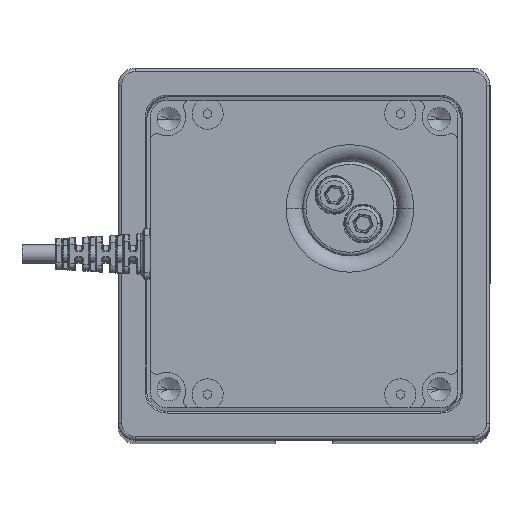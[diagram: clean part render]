
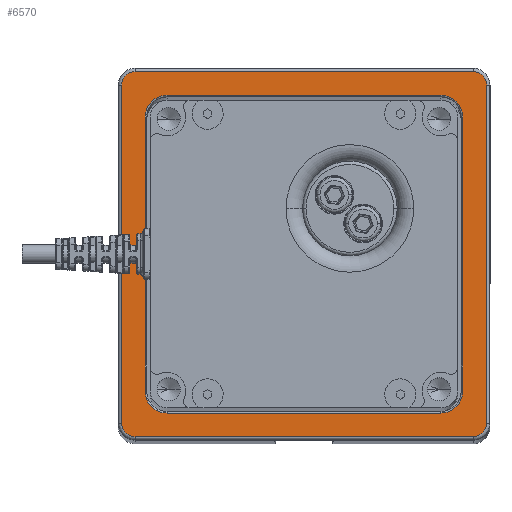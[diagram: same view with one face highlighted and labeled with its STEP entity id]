
A CAD part, top view. The second image highlights one B-rep face of the part: STEP entity #6570.
In plain terms, the highlighted planar face has unit normal (0, 0, 1).
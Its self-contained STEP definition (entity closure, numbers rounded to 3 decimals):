
#168 = VERTEX_POINT ( 'NONE', #11185 ) ;
#336 = EDGE_CURVE ( 'NONE', #10292, #20042, #18397, .T. ) ;
#594 = EDGE_CURVE ( 'NONE', #20042, #2255, #2111, .T. ) ;
#629 = AXIS2_PLACEMENT_3D ( 'NONE', #29610, #15245, #20011 ) ;
#798 = CIRCLE ( 'NONE', #10492, 6.5 ) ;
#900 = CARTESIAN_POINT ( 'NONE',  ( 40.5, 47., 617. ) ) ;
#989 = CARTESIAN_POINT ( 'NONE',  ( 54.041, 50., 617. ) ) ;
#1100 = DIRECTION ( 'NONE',  ( 0., -1., 0. ) ) ;
#1396 = CARTESIAN_POINT ( 'NONE',  ( 47., -40.5, 617. ) ) ;
#1670 = VECTOR ( 'NONE', #4745, 1000. ) ;
#1789 = DIRECTION ( 'NONE',  ( 1., 0., 0. ) ) ;
#1966 = AXIS2_PLACEMENT_3D ( 'NONE', #4145, #11526, #21064 ) ;
#2025 = DIRECTION ( 'NONE',  ( 0., 0., 1. ) ) ;
#2039 = CIRCLE ( 'NONE', #27573, 4. ) ;
#2046 = LINE ( 'NONE', #989, #23629 ) ;
#2111 = LINE ( 'NONE', #16357, #14957 ) ;
#2116 = CARTESIAN_POINT ( 'NONE',  ( -49.959, -50., 617. ) ) ;
#2255 = VERTEX_POINT ( 'NONE', #4176 ) ;
#2368 = CIRCLE ( 'NONE', #1966, 4. ) ;
#2952 = CARTESIAN_POINT ( 'NONE',  ( 40.5, -47., 617. ) ) ;
#3437 = CARTESIAN_POINT ( 'NONE',  ( -53.959, -50., 617. ) ) ;
#3563 = VECTOR ( 'NONE', #1100, 1000. ) ;
#3672 = EDGE_CURVE ( 'NONE', #28622, #20835, #30083, .T. ) ;
#4050 = DIRECTION ( 'NONE',  ( 0., 0., 1. ) ) ;
#4145 = CARTESIAN_POINT ( 'NONE',  ( -49.959, 50., 617. ) ) ;
#4176 = CARTESIAN_POINT ( 'NONE',  ( -47., 40.5, 617. ) ) ;
#4255 = EDGE_CURVE ( 'NONE', #11020, #16785, #2046, .T. ) ;
#4302 = DIRECTION ( 'NONE',  ( 0., 1., 0. ) ) ;
#4477 = CARTESIAN_POINT ( 'NONE',  ( -53.959, 50., 617. ) ) ;
#4509 = EDGE_CURVE ( 'NONE', #16212, #10292, #8453, .T. ) ;
#4745 = DIRECTION ( 'NONE',  ( -1., 0., 0. ) ) ;
#4761 = DIRECTION ( 'NONE',  ( 0., 0., 1. ) ) ;
#4995 = CIRCLE ( 'NONE', #27521, 4. ) ;
#5045 = LINE ( 'NONE', #26482, #23244 ) ;
#5199 = VERTEX_POINT ( 'NONE', #30500 ) ;
#5297 = CIRCLE ( 'NONE', #18721, 6.5 ) ;
#5814 = LINE ( 'NONE', #3437, #3563 ) ;
#6570 = ADVANCED_FACE ( 'NONE', ( #24640, #16693 ), #10252, .T. ) ;
#6936 = DIRECTION ( 'NONE',  ( 0., 0., -1. ) ) ;
#7131 = CARTESIAN_POINT ( 'NONE',  ( -40.5, -40.5, 617. ) ) ;
#7573 = CARTESIAN_POINT ( 'NONE',  ( -40.5, -47., 617. ) ) ;
#7585 = DIRECTION ( 'NONE',  ( 0., 0., -1. ) ) ;
#7749 = ORIENTED_EDGE ( 'NONE', *, *, #21569, .T. ) ;
#8267 = CIRCLE ( 'NONE', #28859, 6.5 ) ;
#8453 = LINE ( 'NONE', #26244, #1670 ) ;
#8928 = EDGE_CURVE ( 'NONE', #168, #25547, #22688, .T. ) ;
#9520 = CARTESIAN_POINT ( 'NONE',  ( 50.041, -50., 617. ) ) ;
#9576 = ORIENTED_EDGE ( 'NONE', *, *, #594, .T. ) ;
#9778 = CIRCLE ( 'NONE', #12031, 4. ) ;
#9796 = ORIENTED_EDGE ( 'NONE', *, *, #25763, .T. ) ;
#10020 = ORIENTED_EDGE ( 'NONE', *, *, #4255, .T. ) ;
#10120 = ORIENTED_EDGE ( 'NONE', *, *, #25868, .T. ) ;
#10252 = PLANE ( 'NONE',  #629 ) ;
#10269 = DIRECTION ( 'NONE',  ( 0., 0., -1. ) ) ;
#10292 = VERTEX_POINT ( 'NONE', #7573 ) ;
#10492 = AXIS2_PLACEMENT_3D ( 'NONE', #24798, #10269, #29631 ) ;
#10690 = DIRECTION ( 'NONE',  ( 1., 0., 0. ) ) ;
#11020 = VERTEX_POINT ( 'NONE', #26476 ) ;
#11151 = VECTOR ( 'NONE', #26568, 1000. ) ;
#11185 = CARTESIAN_POINT ( 'NONE',  ( -40.5, 47., 617. ) ) ;
#11526 = DIRECTION ( 'NONE',  ( 0., 0., 1. ) ) ;
#11710 = CARTESIAN_POINT ( 'NONE',  ( -53.959, -50., 617. ) ) ;
#12009 = DIRECTION ( 'NONE',  ( 0., 0., -1. ) ) ;
#12031 = AXIS2_PLACEMENT_3D ( 'NONE', #9520, #4761, #28878 ) ;
#12355 = VERTEX_POINT ( 'NONE', #17347 ) ;
#12396 = CARTESIAN_POINT ( 'NONE',  ( 50.041, 54., 617. ) ) ;
#12581 = ORIENTED_EDGE ( 'NONE', *, *, #21441, .T. ) ;
#12800 = CARTESIAN_POINT ( 'NONE',  ( 40.5, 47., 617. ) ) ;
#13598 = ORIENTED_EDGE ( 'NONE', *, *, #24951, .T. ) ;
#14957 = VECTOR ( 'NONE', #4302, 1000. ) ;
#15153 = CARTESIAN_POINT ( 'NONE',  ( 47., -40.5, 617. ) ) ;
#15245 = DIRECTION ( 'NONE',  ( 0., 0., 1. ) ) ;
#15331 = ORIENTED_EDGE ( 'NONE', *, *, #22133, .T. ) ;
#16126 = CARTESIAN_POINT ( 'NONE',  ( 47., 40.5, 617. ) ) ;
#16130 = ORIENTED_EDGE ( 'NONE', *, *, #21526, .T. ) ;
#16212 = VERTEX_POINT ( 'NONE', #2952 ) ;
#16357 = CARTESIAN_POINT ( 'NONE',  ( -47., 40.5, 617. ) ) ;
#16394 = LINE ( 'NONE', #1396, #23598 ) ;
#16693 = FACE_BOUND ( 'NONE', #24931, .T. ) ;
#16785 = VERTEX_POINT ( 'NONE', #17387 ) ;
#17100 = VERTEX_POINT ( 'NONE', #4477 ) ;
#17347 = CARTESIAN_POINT ( 'NONE',  ( -49.959, -54., 617. ) ) ;
#17387 = CARTESIAN_POINT ( 'NONE',  ( 54.041, 50., 617. ) ) ;
#18397 = CIRCLE ( 'NONE', #30825, 6.5 ) ;
#18532 = CARTESIAN_POINT ( 'NONE',  ( 50.041, 50., 617. ) ) ;
#18694 = CARTESIAN_POINT ( 'NONE',  ( 40.5, -40.5, 617. ) ) ;
#18721 = AXIS2_PLACEMENT_3D ( 'NONE', #18694, #6936, #1789 ) ;
#19796 = VERTEX_POINT ( 'NONE', #15153 ) ;
#20011 = DIRECTION ( 'NONE',  ( 1., 0., 0. ) ) ;
#20042 = VERTEX_POINT ( 'NONE', #21079 ) ;
#20069 = VERTEX_POINT ( 'NONE', #16126 ) ;
#20635 = ORIENTED_EDGE ( 'NONE', *, *, #3672, .T. ) ;
#20689 = CARTESIAN_POINT ( 'NONE',  ( -49.959, 54., 617. ) ) ;
#20835 = VERTEX_POINT ( 'NONE', #20689 ) ;
#20966 = DIRECTION ( 'NONE',  ( 1., 0., 0. ) ) ;
#21064 = DIRECTION ( 'NONE',  ( 1., 0., 0. ) ) ;
#21079 = CARTESIAN_POINT ( 'NONE',  ( -47., -40.5, 617. ) ) ;
#21441 = EDGE_CURVE ( 'NONE', #17100, #23866, #5814, .T. ) ;
#21526 = EDGE_CURVE ( 'NONE', #16785, #28622, #2039, .T. ) ;
#21567 = DIRECTION ( 'NONE',  ( 1., 0., 0. ) ) ;
#21569 = EDGE_CURVE ( 'NONE', #12355, #5199, #5045, .T. ) ;
#21759 = ORIENTED_EDGE ( 'NONE', *, *, #26763, .T. ) ;
#21906 = CARTESIAN_POINT ( 'NONE',  ( 40.5, 40.5, 617. ) ) ;
#22133 = EDGE_CURVE ( 'NONE', #20069, #19796, #16394, .T. ) ;
#22688 = LINE ( 'NONE', #12800, #24198 ) ;
#23244 = VECTOR ( 'NONE', #28883, 1000. ) ;
#23598 = VECTOR ( 'NONE', #28351, 1000. ) ;
#23629 = VECTOR ( 'NONE', #30042, 1000. ) ;
#23866 = VERTEX_POINT ( 'NONE', #11710 ) ;
#24198 = VECTOR ( 'NONE', #10690, 1000. ) ;
#24299 = DIRECTION ( 'NONE',  ( 1., 0., 0. ) ) ;
#24553 = DIRECTION ( 'NONE',  ( 1., 0., 0. ) ) ;
#24640 = FACE_OUTER_BOUND ( 'NONE', #31227, .T. ) ;
#24798 = CARTESIAN_POINT ( 'NONE',  ( -40.5, 40.5, 617. ) ) ;
#24931 = EDGE_LOOP ( 'NONE', ( #26076, #10120, #15331, #13598, #30084, #26866, #9576, #25165 ) ) ;
#24951 = EDGE_CURVE ( 'NONE', #19796, #16212, #5297, .T. ) ;
#25165 = ORIENTED_EDGE ( 'NONE', *, *, #28787, .T. ) ;
#25547 = VERTEX_POINT ( 'NONE', #900 ) ;
#25763 = EDGE_CURVE ( 'NONE', #5199, #11020, #9778, .T. ) ;
#25868 = EDGE_CURVE ( 'NONE', #25547, #20069, #8267, .T. ) ;
#26076 = ORIENTED_EDGE ( 'NONE', *, *, #8928, .T. ) ;
#26244 = CARTESIAN_POINT ( 'NONE',  ( -40.5, -47., 617. ) ) ;
#26476 = CARTESIAN_POINT ( 'NONE',  ( 54.041, -50., 617. ) ) ;
#26482 = CARTESIAN_POINT ( 'NONE',  ( 50.041, -54., 617. ) ) ;
#26568 = DIRECTION ( 'NONE',  ( -1., 0., 0. ) ) ;
#26763 = EDGE_CURVE ( 'NONE', #20835, #17100, #2368, .T. ) ;
#26866 = ORIENTED_EDGE ( 'NONE', *, *, #336, .T. ) ;
#27521 = AXIS2_PLACEMENT_3D ( 'NONE', #2116, #2025, #21567 ) ;
#27573 = AXIS2_PLACEMENT_3D ( 'NONE', #18532, #4050, #20966 ) ;
#28160 = EDGE_CURVE ( 'NONE', #23866, #12355, #4995, .T. ) ;
#28351 = DIRECTION ( 'NONE',  ( 0., -1., 0. ) ) ;
#28622 = VERTEX_POINT ( 'NONE', #12396 ) ;
#28787 = EDGE_CURVE ( 'NONE', #2255, #168, #798, .T. ) ;
#28859 = AXIS2_PLACEMENT_3D ( 'NONE', #21906, #7585, #24553 ) ;
#28878 = DIRECTION ( 'NONE',  ( 1., 0., 0. ) ) ;
#28883 = DIRECTION ( 'NONE',  ( 1., 0., 0. ) ) ;
#29610 = CARTESIAN_POINT ( 'NONE',  ( 0., 0., 617. ) ) ;
#29631 = DIRECTION ( 'NONE',  ( 1., 0., 0. ) ) ;
#30042 = DIRECTION ( 'NONE',  ( 0., 1., 0. ) ) ;
#30083 = LINE ( 'NONE', #31199, #11151 ) ;
#30084 = ORIENTED_EDGE ( 'NONE', *, *, #4509, .T. ) ;
#30500 = CARTESIAN_POINT ( 'NONE',  ( 50.041, -54., 617. ) ) ;
#30779 = ORIENTED_EDGE ( 'NONE', *, *, #28160, .T. ) ;
#30825 = AXIS2_PLACEMENT_3D ( 'NONE', #7131, #12009, #24299 ) ;
#31199 = CARTESIAN_POINT ( 'NONE',  ( -49.959, 54., 617. ) ) ;
#31227 = EDGE_LOOP ( 'NONE', ( #20635, #21759, #12581, #30779, #7749, #9796, #10020, #16130 ) ) ;
